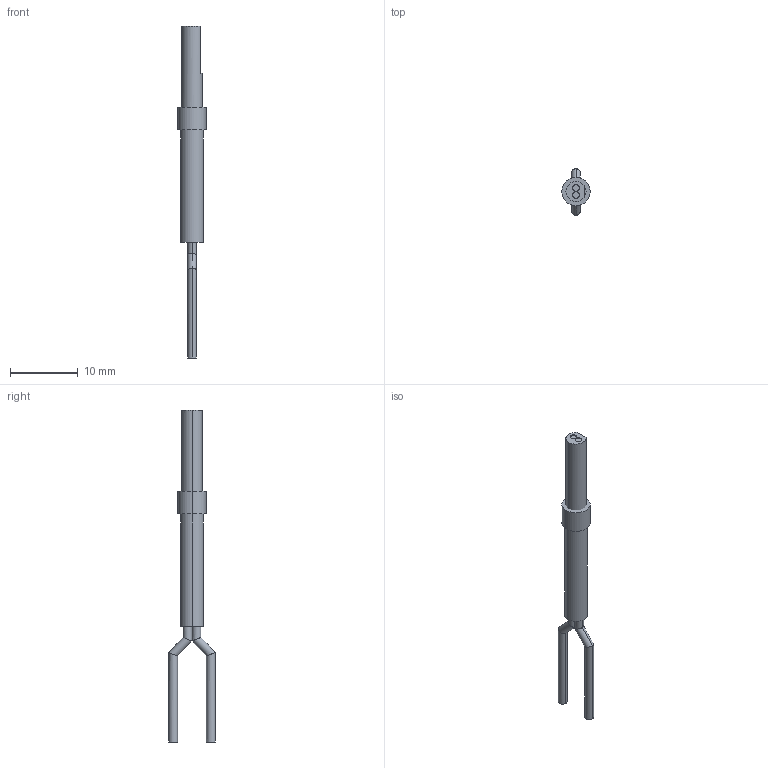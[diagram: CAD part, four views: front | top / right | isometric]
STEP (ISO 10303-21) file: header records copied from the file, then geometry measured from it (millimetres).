
FILE_DESCRIPTION (( 'STEP AP203' ), '1' );
FILE_NAME ('FD-S80.STEP', '2005-09-04T10:17:44', ( '川島良英' ), ( ' ' ), 'SwSTEP 2.0', 'SolidWorks 2004251', '' );
FILE_SCHEMA (( 'CONFIG_CONTROL_DESIGN' ));
Length unit declared in the file: millimetre
Products named in the file (1): FD-S80
Bounding box: 4.2 x 6.88 x 49.17 mm (x, y, z)
Volume: 349 mm3; surface area: 552.3 mm2
Topology: 2 solids, 2 shells, 33 faces, 64 edges, 40 vertices
Faces by surface type: cylinder 22, plane 11
Entity records: 919 total; most frequent: CARTESIAN_POINT 162, DIRECTION 154, ORIENTED_EDGE 128, AXIS2_PLACEMENT_3D 64, EDGE_CURVE 64, VERTEX_POINT 40, EDGE_LOOP 38, FACE_OUTER_BOUND 33
